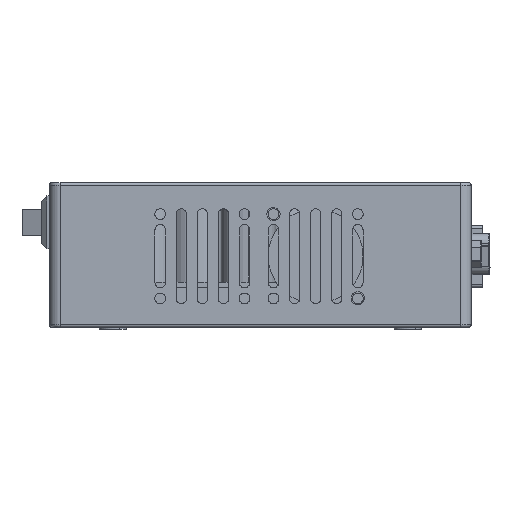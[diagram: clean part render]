
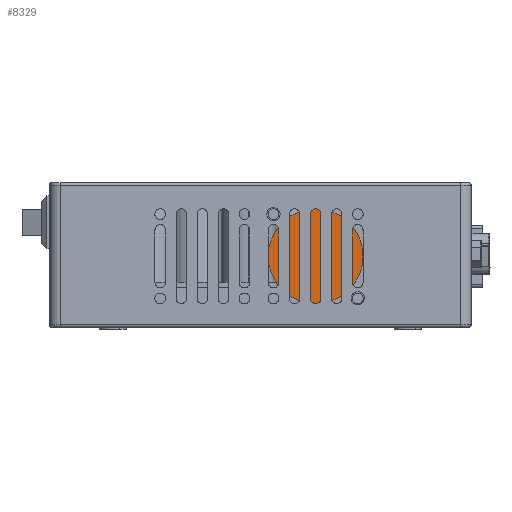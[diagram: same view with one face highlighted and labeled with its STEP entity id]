
A CAD part, left-side view. The second image highlights one B-rep face of the part: STEP entity #8329.
In plain terms, the highlighted planar face has unit normal (-1, 0, 0).
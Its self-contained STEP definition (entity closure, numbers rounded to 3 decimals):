
#439 = DIRECTION ( 'NONE',  ( 0., 0., 1. ) ) ;
#2878 = CIRCLE ( 'NONE', #18811, 9. ) ;
#3845 = EDGE_CURVE ( 'NONE', #8819, #11886, #2878, .T. ) ;
#4536 = DIRECTION ( 'NONE',  ( -1., 0., 0. ) ) ;
#4954 = EDGE_CURVE ( 'NONE', #11886, #8819, #16176, .T. ) ;
#5373 = CARTESIAN_POINT ( 'NONE',  ( -44.864, 70.939, 127.002 ) ) ;
#7679 = CARTESIAN_POINT ( 'NONE',  ( -44.864, 70.939, 118.002 ) ) ;
#8329 = ADVANCED_FACE ( 'NONE', ( #14094 ), #12935, .T. ) ;
#8819 = VERTEX_POINT ( 'NONE', #7679 ) ;
#9135 = AXIS2_PLACEMENT_3D ( 'NONE', #17987, #4536, #16340 ) ;
#9502 = CARTESIAN_POINT ( 'NONE',  ( -44.864, 70.939, 136.002 ) ) ;
#11886 = VERTEX_POINT ( 'NONE', #9502 ) ;
#12260 = ORIENTED_EDGE ( 'NONE', *, *, #4954, .T. ) ;
#12935 = PLANE ( 'NONE',  #9135 ) ;
#13492 = ORIENTED_EDGE ( 'NONE', *, *, #3845, .T. ) ;
#13870 = DIRECTION ( 'NONE',  ( -1., 0., 0. ) ) ;
#14094 = FACE_OUTER_BOUND ( 'NONE', #19416, .T. ) ;
#15450 = DIRECTION ( 'NONE',  ( -1., 0., 0. ) ) ;
#16080 = CARTESIAN_POINT ( 'NONE',  ( -44.864, 70.939, 127.002 ) ) ;
#16176 = CIRCLE ( 'NONE', #21086, 9. ) ;
#16340 = DIRECTION ( 'NONE',  ( 0., 0., 1. ) ) ;
#17987 = CARTESIAN_POINT ( 'NONE',  ( -44.864, 70.939, 127.002 ) ) ;
#18107 = DIRECTION ( 'NONE',  ( 0., 0., 1. ) ) ;
#18811 = AXIS2_PLACEMENT_3D ( 'NONE', #5373, #13870, #439 ) ;
#19416 = EDGE_LOOP ( 'NONE', ( #12260, #13492 ) ) ;
#21086 = AXIS2_PLACEMENT_3D ( 'NONE', #16080, #15450, #18107 ) ;
